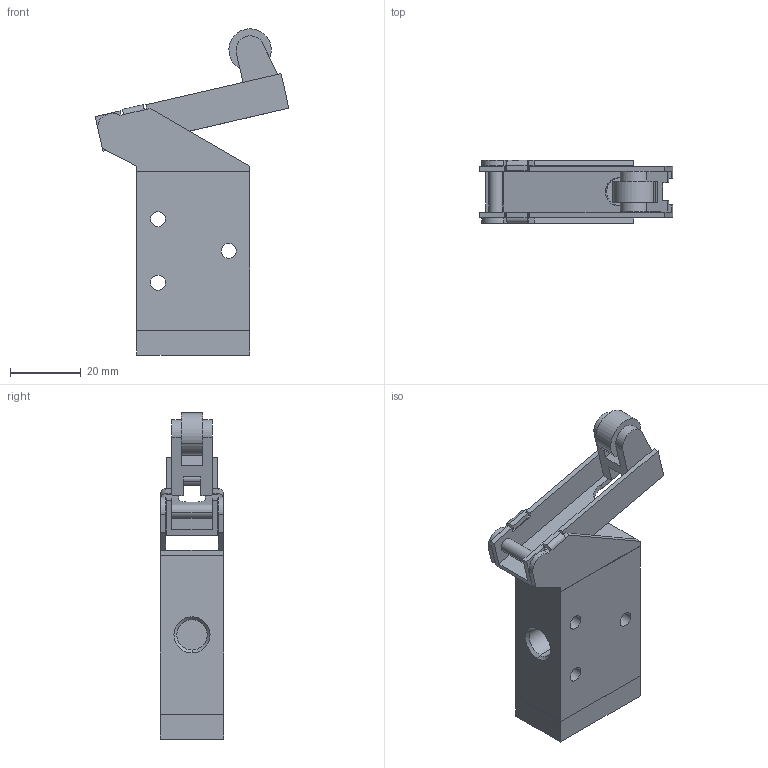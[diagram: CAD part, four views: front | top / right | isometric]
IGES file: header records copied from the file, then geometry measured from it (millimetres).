
Global section: file name: No Iges File Name specified; native system: AutoDesk Inventor R11.0; preprocessor: AutoDesk Inventor Iges Exporter R11.0; author: No Author specified; organization: No Organization specified; date: 20061219.113803; units: millimetre
Bounding box: 54.87 x 18 x 92.34 mm (x, y, z)
Volume: 34235.5 mm3; surface area: 15417.9 mm2
Topology: 3 solids, 3 shells, 128 faces, 322 edges, 204 vertices
Faces by surface type: plane 80, bspline 27, cylinder 14, revolution 7
